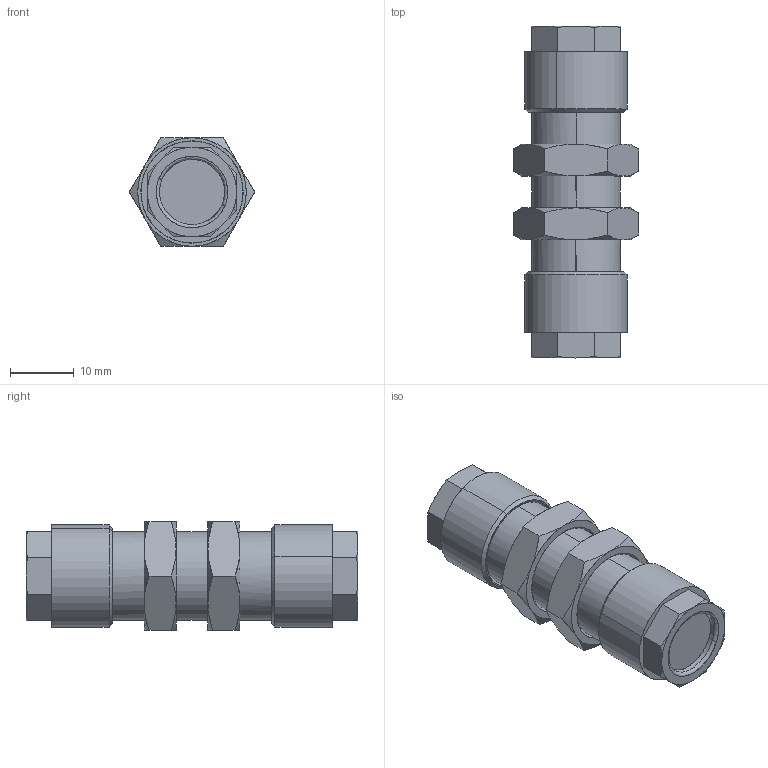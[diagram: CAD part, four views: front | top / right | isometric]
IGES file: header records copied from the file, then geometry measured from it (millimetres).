
Start section: SolidWorks IGES file using analytic representation for surfaces
Global section: file name: K:\Disegni Esecutivi\Serie 1000\Complessivi Serie 1000\1050\1050_iges\0105000009A.IGS; native system: SolidWorks 2008; preprocessor: SolidWorks 2008; author: cad05; date: 090126.093521; units: millimetre
Bounding box: 19.63 x 52 x 17 mm (x, y, z)
Surface area: 3586.9 mm2 (no closed solid volume)
Topology: 0 solids, 0 shells, 116 faces, 1486 edges, 1486 vertices
Faces by surface type: revolution 72, bspline 44
